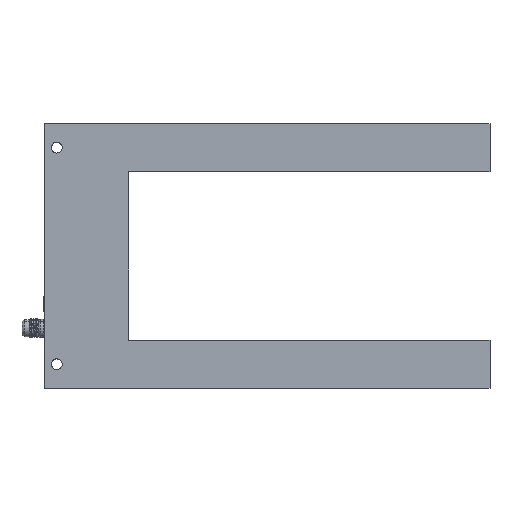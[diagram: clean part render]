
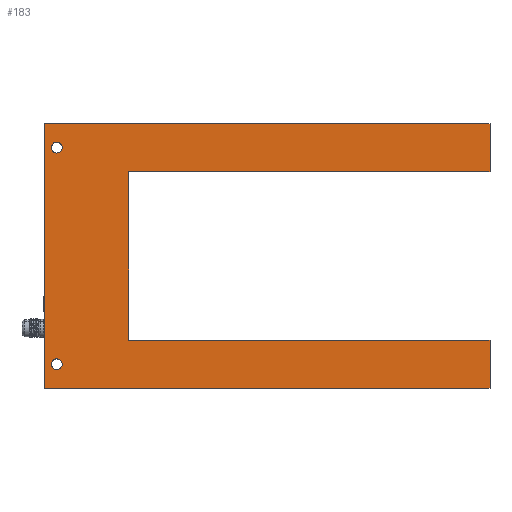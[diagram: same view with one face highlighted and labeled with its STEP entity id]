
A CAD part, top view. The second image highlights one B-rep face of the part: STEP entity #183.
In plain terms, the highlighted planar face has unit normal (0, 0, 1).
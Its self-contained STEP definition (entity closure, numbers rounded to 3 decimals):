
#183=ADVANCED_FACE('',(#416,#417,#418),#419,.T.);
#416=FACE_BOUND('',#696,.T.);
#417=FACE_BOUND('',#697,.T.);
#418=FACE_OUTER_BOUND('',#698,.T.);
#419=PLANE('',#699);
#696=EDGE_LOOP('',(#2539,#2540));
#697=EDGE_LOOP('',(#2541,#2542));
#698=EDGE_LOOP('',(#2543,#2544,#2545,#2546,#2547,#2548,#2549,#2550,#2551,#2552,#2553,#2554));
#699=AXIS2_PLACEMENT_3D('',#2555,#2556,#2557);
#2539=ORIENTED_EDGE('',*,*,#3071,.T.);
#2540=ORIENTED_EDGE('',*,*,#3091,.T.);
#2541=ORIENTED_EDGE('',*,*,#3104,.T.);
#2542=ORIENTED_EDGE('',*,*,#3125,.T.);
#2543=ORIENTED_EDGE('',*,*,#3162,.T.);
#2544=ORIENTED_EDGE('',*,*,#3163,.T.);
#2545=ORIENTED_EDGE('',*,*,#3046,.T.);
#2546=ORIENTED_EDGE('',*,*,#3164,.T.);
#2547=ORIENTED_EDGE('',*,*,#3109,.T.);
#2548=ORIENTED_EDGE('',*,*,#3165,.T.);
#2549=ORIENTED_EDGE('',*,*,#3021,.T.);
#2550=ORIENTED_EDGE('',*,*,#3166,.T.);
#2551=ORIENTED_EDGE('',*,*,#3053,.T.);
#2552=ORIENTED_EDGE('',*,*,#3167,.T.);
#2553=ORIENTED_EDGE('',*,*,#3011,.T.);
#2554=ORIENTED_EDGE('',*,*,#3168,.T.);
#2555=CARTESIAN_POINT('',(142.5,-45.0,10.));
#2556=DIRECTION('',(0.0,0.0,1.0));
#2557=DIRECTION('',(1.0,0.0,0.0));
#3011=EDGE_CURVE('',#3308,#3313,#3315,.T.);
#3021=EDGE_CURVE('',#3333,#3331,#3334,.T.);
#3046=EDGE_CURVE('',#3376,#3373,#3377,.T.);
#3053=EDGE_CURVE('',#3383,#3387,#3389,.T.);
#3071=EDGE_CURVE('',#3412,#3417,#3419,.T.);
#3091=EDGE_CURVE('',#3417,#3412,#3451,.T.);
#3104=EDGE_CURVE('',#3464,#3469,#3471,.T.);
#3109=EDGE_CURVE('',#3473,#3478,#3480,.T.);
#3125=EDGE_CURVE('',#3469,#3464,#3506,.T.);
#3162=EDGE_CURVE('',#3559,#3560,#3561,.T.);
#3163=EDGE_CURVE('',#3560,#3376,#3562,.T.);
#3164=EDGE_CURVE('',#3373,#3473,#3563,.T.);
#3165=EDGE_CURVE('',#3478,#3333,#3564,.T.);
#3166=EDGE_CURVE('',#3331,#3383,#3565,.T.);
#3167=EDGE_CURVE('',#3387,#3308,#3566,.T.);
#3168=EDGE_CURVE('',#3313,#3559,#3567,.T.);
#3308=VERTEX_POINT('',#3738);
#3313=VERTEX_POINT('',#3745);
#3315=LINE('',#3748,#3749);
#3331=VERTEX_POINT('',#3769);
#3333=VERTEX_POINT('',#3772);
#3334=LINE('',#3773,#3774);
#3373=VERTEX_POINT('',#3826);
#3376=VERTEX_POINT('',#3830);
#3377=LINE('',#3831,#3832);
#3383=VERTEX_POINT('',#3840);
#3387=VERTEX_POINT('',#3846);
#3389=LINE('',#3849,#3850);
#3412=VERTEX_POINT('',#3876);
#3417=VERTEX_POINT('',#3882);
#3419=CIRCLE('',#3885,2.25);
#3451=CIRCLE('',#3969,2.25);
#3464=VERTEX_POINT('',#4029);
#3469=VERTEX_POINT('',#4035);
#3471=CIRCLE('',#4038,2.25);
#3473=VERTEX_POINT('',#4040);
#3478=VERTEX_POINT('',#4047);
#3480=LINE('',#4050,#4051);
#3506=CIRCLE('',#4167,2.25);
#3559=VERTEX_POINT('',#4306);
#3560=VERTEX_POINT('',#4307);
#3561=LINE('',#4308,#4309);
#3562=LINE('',#4310,#4311);
#3563=LINE('',#4312,#4313);
#3564=LINE('',#4314,#4315);
#3565=LINE('',#4316,#4317);
#3566=LINE('',#4318,#4319);
#3567=LINE('',#4320,#4321);
#3738=CARTESIAN_POINT('',(-17.5,-40.0,10.0));
#3745=CARTESIAN_POINT('',(-17.5,-55.0,10.0));
#3748=CARTESIAN_POINT('',(-17.5,-45.0,10.0));
#3749=VECTOR('',#4934,1.0);
#3769=CARTESIAN_POINT('',(-17.5,40.0,10.0));
#3772=CARTESIAN_POINT('',(-17.5,55.0,10.0));
#3773=CARTESIAN_POINT('',(-17.5,45.0,10.0));
#3774=VECTOR('',#4946,1.0);
#3826=CARTESIAN_POINT('',(17.515,35.0,10.0));
#3830=CARTESIAN_POINT('',(17.515,-35.0,10.0));
#3831=CARTESIAN_POINT('',(17.515,0.0,10.0));
#3832=VECTOR('',#4973,1.);
#3840=CARTESIAN_POINT('',(-17.485,40.0,10.0));
#3846=CARTESIAN_POINT('',(-17.485,-40.0,10.0));
#3849=CARTESIAN_POINT('',(-17.485,0.0,10.0));
#3850=VECTOR('',#4979,1.);
#3876=CARTESIAN_POINT('',(-10.25,-45.0,10.0));
#3882=CARTESIAN_POINT('',(-14.75,-45.0,10.0));
#3885=AXIS2_PLACEMENT_3D('',#5012,#5013,#5014);
#3969=AXIS2_PLACEMENT_3D('',#5035,#5036,#5037);
#4029=CARTESIAN_POINT('',(-10.25,45.0,10.0));
#4035=CARTESIAN_POINT('',(-14.75,45.0,10.0));
#4038=AXIS2_PLACEMENT_3D('',#5049,#5050,#5051);
#4040=CARTESIAN_POINT('',(167.5,35.0,10.));
#4047=CARTESIAN_POINT('',(167.5,55.0,10.));
#4050=CARTESIAN_POINT('',(167.5,45.0,10.));
#4051=VECTOR('',#5055,1.0);
#4167=AXIS2_PLACEMENT_3D('',#5063,#5064,#5065);
#4306=CARTESIAN_POINT('',(167.5,-55.0,10.));
#4307=CARTESIAN_POINT('',(167.5,-35.0,10.));
#4308=CARTESIAN_POINT('',(167.5,-45.0,10.));
#4309=VECTOR('',#5108,1.0);
#4310=CARTESIAN_POINT('',(142.5,-35.0,10.));
#4311=VECTOR('',#5109,1.0);
#4312=CARTESIAN_POINT('',(35.0,35.0,10.0));
#4313=VECTOR('',#5110,1.0);
#4314=CARTESIAN_POINT('',(142.5,55.0,10.));
#4315=VECTOR('',#5111,1.0);
#4316=CARTESIAN_POINT('',(17.5,40.0,10.0));
#4317=VECTOR('',#5112,1.0);
#4318=CARTESIAN_POINT('',(17.5,-40.0,10.0));
#4319=VECTOR('',#5113,1.0);
#4320=CARTESIAN_POINT('',(35.0,-55.0,10.0));
#4321=VECTOR('',#5114,1.0);
#4934=DIRECTION('',(0.0,-1.0,0.));
#4946=DIRECTION('',(0.0,-1.0,0.0));
#4973=DIRECTION('',(0.,1.0,0.));
#4979=DIRECTION('',(0.,-1.0,0.));
#5012=CARTESIAN_POINT('',(-12.5,-45.0,10.0));
#5013=DIRECTION('',(0.0,0.,-1.0));
#5014=DIRECTION('',(1.0,0.0,0.0));
#5035=CARTESIAN_POINT('',(-12.5,-45.0,10.0));
#5036=DIRECTION('',(0.0,0.,-1.0));
#5037=DIRECTION('',(1.0,0.0,0.0));
#5049=CARTESIAN_POINT('',(-12.5,45.0,10.0));
#5050=DIRECTION('',(0.0,0.0,-1.0));
#5051=DIRECTION('',(1.0,0.0,0.0));
#5055=DIRECTION('',(0.0,1.0,0.0));
#5063=CARTESIAN_POINT('',(-12.5,45.0,10.0));
#5064=DIRECTION('',(0.0,0.0,-1.0));
#5065=DIRECTION('',(1.0,0.0,0.0));
#5108=DIRECTION('',(0.0,1.0,0.0));
#5109=DIRECTION('',(-1.0,0.0,0.0));
#5110=DIRECTION('',(1.0,0.0,0.0));
#5111=DIRECTION('',(-1.0,0.0,0.0));
#5112=DIRECTION('',(1.0,0.0,0.0));
#5113=DIRECTION('',(-1.0,0.0,0.0));
#5114=DIRECTION('',(1.0,0.0,0.0));
